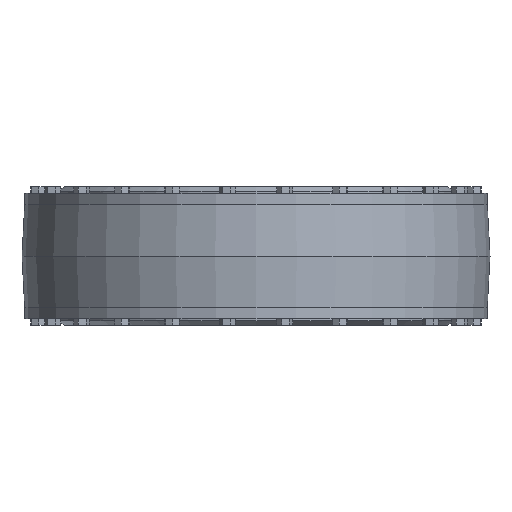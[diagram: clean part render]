
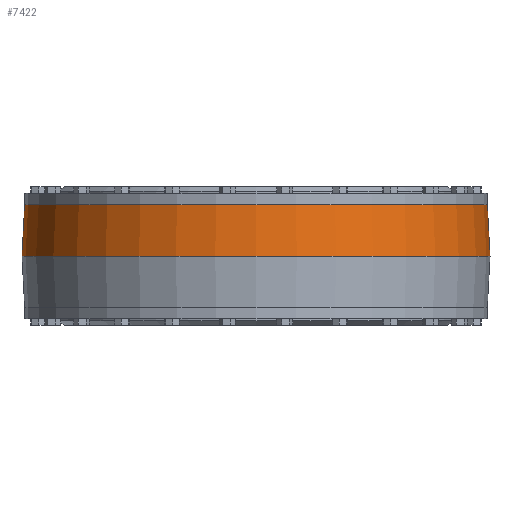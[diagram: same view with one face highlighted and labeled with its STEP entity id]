
A CAD part, front view. The second image highlights one B-rep face of the part: STEP entity #7422.
In plain terms, the highlighted conical face has half-angle 3 degrees and reference radius 325.734 mm.
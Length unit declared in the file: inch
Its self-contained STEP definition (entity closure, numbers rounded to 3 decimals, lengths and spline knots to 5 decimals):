
#66=CONICAL_SURFACE('',#7891,12.82416,0.052);
#204=CIRCLE('',#7889,12.75);
#205=CIRCLE('',#7890,12.75);
#206=CIRCLE('',#7892,12.89831);
#207=CIRCLE('',#7893,12.89831);
#578=FACE_OUTER_BOUND('',#1013,.T.);
#1013=EDGE_LOOP('',(#6309,#6310,#6311,#6312,#6313,#6314));
#1898=LINE('',#11708,#2783);
#2783=VECTOR('',#9691,12.82416);
#3434=VERTEX_POINT('',#11698);
#3435=VERTEX_POINT('',#11699);
#3436=VERTEX_POINT('',#11704);
#3437=VERTEX_POINT('',#11705);
#4393=EDGE_CURVE('',#3434,#3435,#204,.T.);
#4394=EDGE_CURVE('',#3435,#3434,#205,.T.);
#4396=EDGE_CURVE('',#3436,#3437,#206,.T.);
#4397=EDGE_CURVE('',#3437,#3436,#207,.T.);
#4398=EDGE_CURVE('',#3437,#3435,#1898,.T.);
#6309=ORIENTED_EDGE('',*,*,#4396,.F.);
#6310=ORIENTED_EDGE('',*,*,#4397,.F.);
#6311=ORIENTED_EDGE('',*,*,#4398,.T.);
#6312=ORIENTED_EDGE('',*,*,#4394,.T.);
#6313=ORIENTED_EDGE('',*,*,#4393,.T.);
#6314=ORIENTED_EDGE('',*,*,#4398,.F.);
#7422=ADVANCED_FACE('',(#578),#66,.T.);
#7889=AXIS2_PLACEMENT_3D('',#11700,#9680,#9681);
#7890=AXIS2_PLACEMENT_3D('',#11701,#9682,#9683);
#7891=AXIS2_PLACEMENT_3D('',#11703,#9685,#9686);
#7892=AXIS2_PLACEMENT_3D('',#11706,#9687,#9688);
#7893=AXIS2_PLACEMENT_3D('',#11707,#9689,#9690);
#9680=DIRECTION('center_axis',(0.,0.,-1.));
#9681=DIRECTION('ref_axis',(1.,0.,0.));
#9682=DIRECTION('center_axis',(0.,0.,-1.));
#9683=DIRECTION('ref_axis',(1.,0.,0.));
#9685=DIRECTION('center_axis',(0.,0.,-1.));
#9686=DIRECTION('ref_axis',(0.,1.,0.));
#9687=DIRECTION('center_axis',(0.,0.,-1.));
#9688=DIRECTION('ref_axis',(1.,0.,0.));
#9689=DIRECTION('center_axis',(0.,0.,-1.));
#9690=DIRECTION('ref_axis',(1.,0.,0.));
#9691=DIRECTION('',(0.,0.052,0.999));
#11698=CARTESIAN_POINT('',(0.,12.75,2.83));
#11699=CARTESIAN_POINT('',(0.,-12.75,2.83));
#11700=CARTESIAN_POINT('Origin',(0.,0.,2.83));
#11701=CARTESIAN_POINT('Origin',(0.,0.,2.83));
#11703=CARTESIAN_POINT('Origin',(0.,0.,1.415));
#11704=CARTESIAN_POINT('',(0.,12.89831,0.));
#11705=CARTESIAN_POINT('',(0.,-12.89831,0.));
#11706=CARTESIAN_POINT('Origin',(0.,0.,0.));
#11707=CARTESIAN_POINT('Origin',(0.,0.,0.));
#11708=CARTESIAN_POINT('',(0.,-12.82416,1.415));
